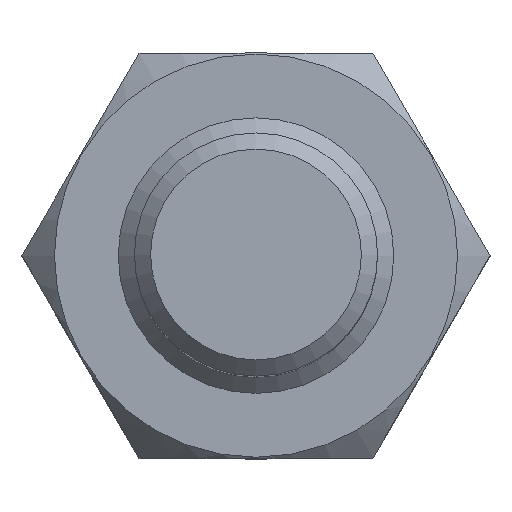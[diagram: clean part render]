
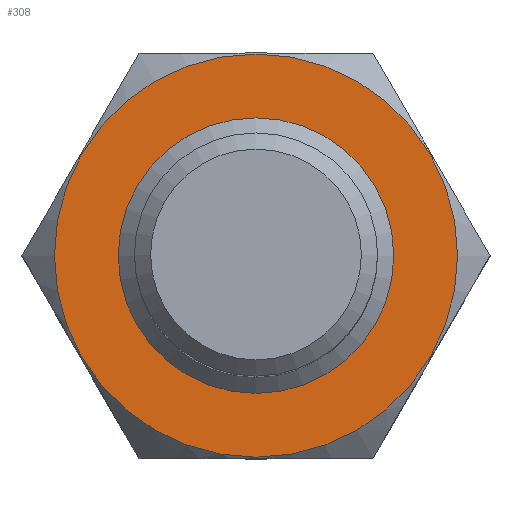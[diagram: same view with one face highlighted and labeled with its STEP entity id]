
A CAD part, top view. The second image highlights one B-rep face of the part: STEP entity #308.
In plain terms, the highlighted planar face has unit normal (0, 0, 1).
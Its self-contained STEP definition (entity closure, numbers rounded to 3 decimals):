
#50=FACE_BOUND('',#93,.T.);
#58=PLANE('',#356);
#74=FACE_OUTER_BOUND('',#92,.T.);
#92=EDGE_LOOP('',(#274));
#93=EDGE_LOOP('',(#275));
#139=CIRCLE('',#340,2.487);
#144=CIRCLE('',#350,1.7);
#163=VERTEX_POINT('',#495);
#170=VERTEX_POINT('',#522);
#193=EDGE_CURVE('',#163,#163,#139,.T.);
#204=EDGE_CURVE('',#170,#170,#144,.T.);
#274=ORIENTED_EDGE('',*,*,#193,.T.);
#275=ORIENTED_EDGE('',*,*,#204,.F.);
#308=ADVANCED_FACE('',(#74,#50),#58,.T.);
#340=AXIS2_PLACEMENT_3D('',#496,#385,#386);
#350=AXIS2_PLACEMENT_3D('',#523,#409,#410);
#356=AXIS2_PLACEMENT_3D('',#535,#423,#424);
#385=DIRECTION('center_axis',(0.,0.,1.));
#386=DIRECTION('ref_axis',(-0.5,-0.866,0.));
#409=DIRECTION('center_axis',(0.,0.,1.));
#410=DIRECTION('ref_axis',(-1.,0.,0.));
#423=DIRECTION('center_axis',(0.,0.,1.));
#424=DIRECTION('ref_axis',(1.,0.,0.));
#495=CARTESIAN_POINT('',(1.243,2.154,0.));
#496=CARTESIAN_POINT('Origin',(0.,0.,
0.));
#522=CARTESIAN_POINT('',(1.7,0.,0.));
#523=CARTESIAN_POINT('Origin',(0.,0.,0.));
#535=CARTESIAN_POINT('Origin',(0.,0.,
0.));
